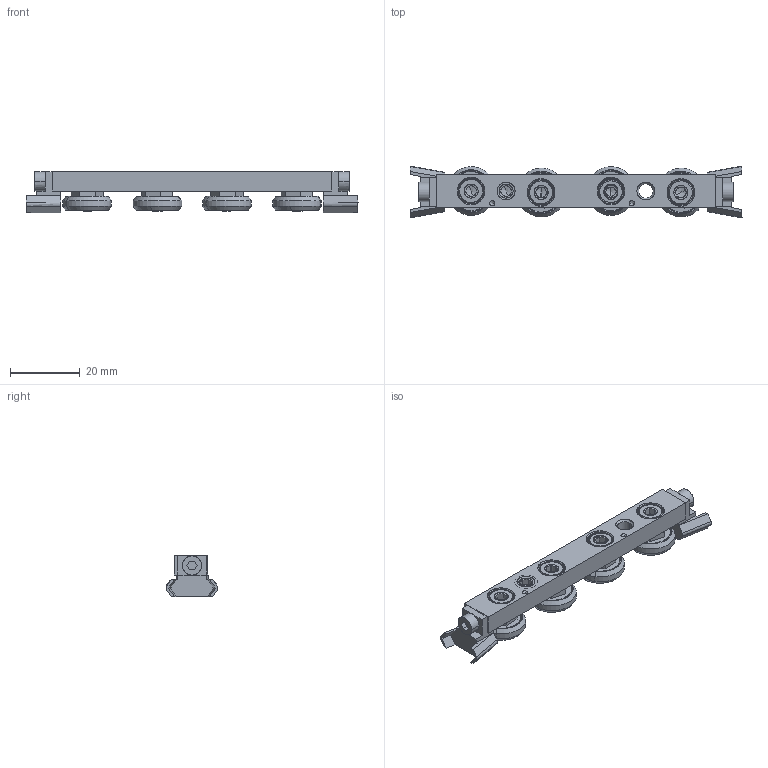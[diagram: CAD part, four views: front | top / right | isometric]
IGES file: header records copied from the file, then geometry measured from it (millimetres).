
Start section: SolidWorks IGES file using analytic representation for surfaces
Global section: file name: E:\J-00018 - L1918-L1963 LCompact Rail\L1918_v2\L1918.CSW18_v2\L1918.CSW18_IGES\L1918.CSW18-80-2ZTB.igs; native system: SolidWorks 2017; preprocessor: SolidWorks 2017; author: liam_; date: 190629.230309; units: millimetre
Bounding box: 95 x 14.8 x 11.95 mm (x, y, z)
Surface area: 7620.7 mm2 (no closed solid volume)
Topology: 0 solids, 0 shells, 434 faces, 5456 edges, 5430 vertices
Faces by surface type: bspline 248, revolution 186
